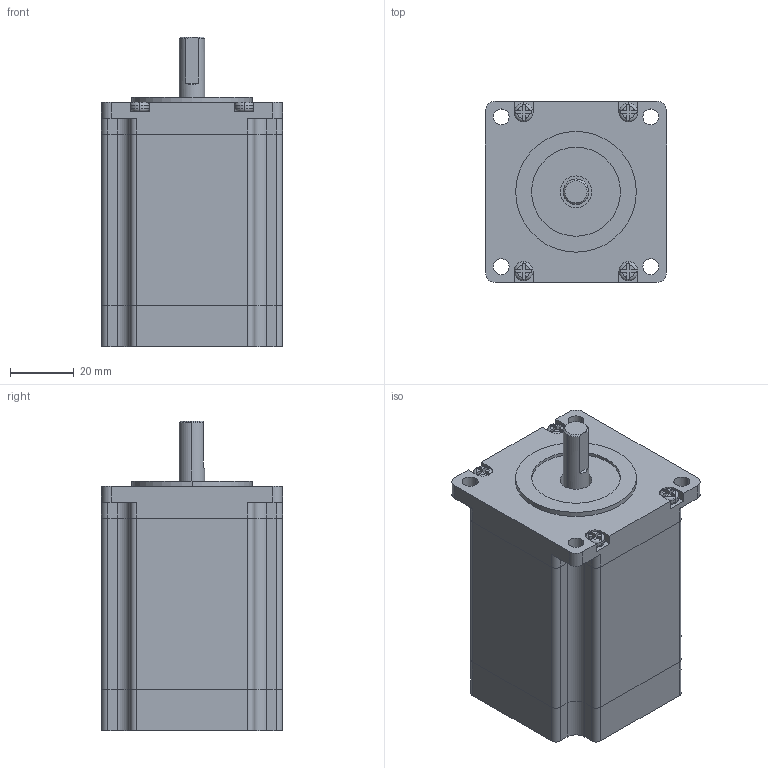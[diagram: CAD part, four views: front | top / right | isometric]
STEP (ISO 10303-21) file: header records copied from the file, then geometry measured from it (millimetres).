
FILE_DESCRIPTION (( 'STEP AP214' ), '1' );
FILE_NAME ('57J1880-830(H).STEP', '2016-05-16T07:14:37', ( 'User' ), ( 'china' ), 'SwSTEP 2.0', 'SolidWorks 2010', '' );
FILE_SCHEMA (( 'AUTOMOTIVE_DESIGN' ));
Length unit declared in the file: millimetre
Products named in the file (5): 蹟佪芛; 57菁裔1; 57J1880-830(H); 57奻裔 2; 57儂旯
Assembly tree (7 placements, depth 2):
  57J1880-830(H)
    57奻裔 2
    蹟佪芛  x4
    57菁裔1
    57儂旯
Bounding box: 57 x 57 x 97.6 mm (x, y, z)
Volume: 228140.1 mm3; surface area: 36885.3 mm2
Topology: 7 solids, 7 shells, 246 faces, 642 edges, 419 vertices
Faces by surface type: plane 141, cylinder 78, torus 16, cone 11
Entity records: 6466 total; most frequent: CARTESIAN_POINT 1024, DIRECTION 973, ORIENTED_EDGE 912, EDGE_CURVE 456, AXIS2_PLACEMENT_3D 350, VERTEX_POINT 299, VECTOR 273, LINE 273
